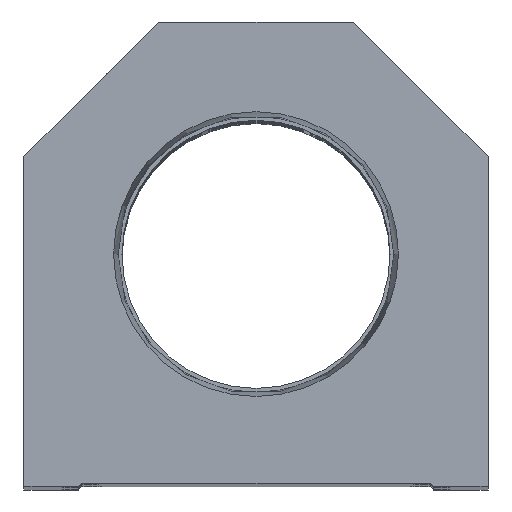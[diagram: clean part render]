
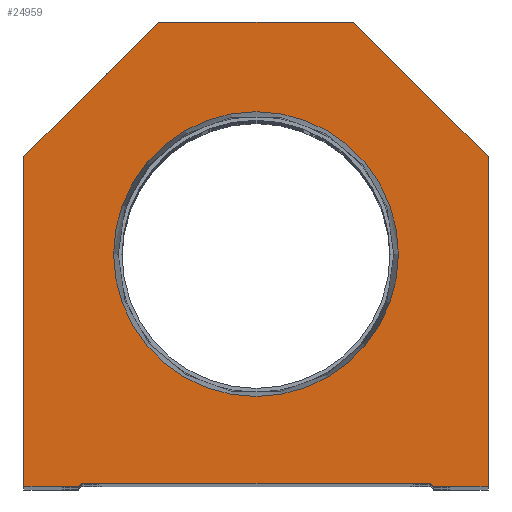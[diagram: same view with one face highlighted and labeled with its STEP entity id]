
A CAD part, top view. The second image highlights one B-rep face of the part: STEP entity #24959.
In plain terms, the highlighted planar face has unit normal (0, 0, 1).
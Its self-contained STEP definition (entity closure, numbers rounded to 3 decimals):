
#218 = LINE ( 'NONE', #4463, #15354 ) ;
#543 = EDGE_CURVE ( 'NONE', #13517, #16882, #7091, .T. ) ;
#654 = DIRECTION ( 'NONE',  ( 1., 0., 0. ) ) ;
#897 = CARTESIAN_POINT ( 'NONE',  ( -38.1, 0., 0. ) ) ;
#955 = CARTESIAN_POINT ( 'NONE',  ( -28.6, 0.5, 0. ) ) ;
#1130 = DIRECTION ( 'NONE',  ( -1., 0., 0. ) ) ;
#1288 = LINE ( 'NONE', #9402, #10842 ) ;
#1513 = DIRECTION ( 'NONE',  ( 1., 0., 0. ) ) ;
#1541 = EDGE_CURVE ( 'NONE', #17196, #5450, #5223, .T. ) ;
#1588 = DIRECTION ( 'NONE',  ( 1., 0., 0. ) ) ;
#1748 = CARTESIAN_POINT ( 'NONE',  ( 0., 38.1, 0. ) ) ;
#1871 = EDGE_CURVE ( 'NONE', #18361, #23431, #12104, .T. ) ;
#2298 = CARTESIAN_POINT ( 'NONE',  ( -14.55, 14.55, 0. ) ) ;
#2429 = EDGE_CURVE ( 'NONE', #15503, #15058, #11474, .T. ) ;
#2676 = LINE ( 'NONE', #9314, #18760 ) ;
#3188 = LINE ( 'NONE', #21119, #15501 ) ;
#3242 = VECTOR ( 'NONE', #6411, 1000. ) ;
#3899 = ORIENTED_EDGE ( 'NONE', *, *, #543, .T. ) ;
#4004 = DIRECTION ( 'NONE',  ( 0., 0., 1. ) ) ;
#4463 = CARTESIAN_POINT ( 'NONE',  ( 38.1, 54.1, 0. ) ) ;
#5110 = ORIENTED_EDGE ( 'NONE', *, *, #15282, .F. ) ;
#5223 = LINE ( 'NONE', #9629, #15840 ) ;
#5450 = VERTEX_POINT ( 'NONE', #25671 ) ;
#5772 = CIRCLE ( 'NONE', #20491, 23.374 ) ;
#5850 = CARTESIAN_POINT ( 'NONE',  ( 14.55, 14.55, 0. ) ) ;
#6133 = ORIENTED_EDGE ( 'NONE', *, *, #25575, .T. ) ;
#6411 = DIRECTION ( 'NONE',  ( 0.707, 0.707, 0. ) ) ;
#7091 = LINE ( 'NONE', #19591, #21587 ) ;
#7117 = VERTEX_POINT ( 'NONE', #21606 ) ;
#7305 = CARTESIAN_POINT ( 'NONE',  ( 0., 0., 0. ) ) ;
#7808 = ORIENTED_EDGE ( 'NONE', *, *, #2429, .F. ) ;
#7919 = CARTESIAN_POINT ( 'NONE',  ( -29.1, 0., 0. ) ) ;
#8086 = CARTESIAN_POINT ( 'NONE',  ( 23.374, 38.1, 0. ) ) ;
#8144 = EDGE_CURVE ( 'NONE', #11089, #18361, #2676, .T. ) ;
#8472 = VECTOR ( 'NONE', #14540, 1000. ) ;
#8495 = DIRECTION ( 'NONE',  ( 0., -1., 0. ) ) ;
#9314 = CARTESIAN_POINT ( 'NONE',  ( -28.6, 0., 0. ) ) ;
#9402 = CARTESIAN_POINT ( 'NONE',  ( -28.6, 0.5, 0. ) ) ;
#9440 = FACE_OUTER_BOUND ( 'NONE', #19140, .T. ) ;
#9629 = CARTESIAN_POINT ( 'NONE',  ( 16., 76.2, 0. ) ) ;
#10194 = ORIENTED_EDGE ( 'NONE', *, *, #17692, .T. ) ;
#10446 = DIRECTION ( 'NONE',  ( -0.707, 0.707, 0. ) ) ;
#10713 = CARTESIAN_POINT ( 'NONE',  ( 38.1, 0., 0. ) ) ;
#10762 = DIRECTION ( 'NONE',  ( 1., 0., 0. ) ) ;
#10842 = VECTOR ( 'NONE', #15336, 1000. ) ;
#11076 = CARTESIAN_POINT ( 'NONE',  ( 28.6, 0.5, 0. ) ) ;
#11089 = VERTEX_POINT ( 'NONE', #897 ) ;
#11474 = CIRCLE ( 'NONE', #21136, 23.374 ) ;
#11669 = FACE_BOUND ( 'NONE', #21214, .T. ) ;
#11675 = DIRECTION ( 'NONE',  ( 0.707, -0.707, 0. ) ) ;
#12104 = LINE ( 'NONE', #2298, #3242 ) ;
#12287 = ORIENTED_EDGE ( 'NONE', *, *, #1871, .T. ) ;
#12658 = ORIENTED_EDGE ( 'NONE', *, *, #26046, .T. ) ;
#13079 = ORIENTED_EDGE ( 'NONE', *, *, #13736, .T. ) ;
#13517 = VERTEX_POINT ( 'NONE', #23567 ) ;
#13736 = EDGE_CURVE ( 'NONE', #5450, #24949, #3188, .T. ) ;
#13923 = CARTESIAN_POINT ( 'NONE',  ( -38.1, 54.1, 0. ) ) ;
#14212 = EDGE_CURVE ( 'NONE', #23431, #26123, #1288, .T. ) ;
#14342 = DIRECTION ( 'NONE',  ( 1., 0., 0. ) ) ;
#14540 = DIRECTION ( 'NONE',  ( 0., 1., 0. ) ) ;
#14905 = CARTESIAN_POINT ( 'NONE',  ( 16., 76.2, 0. ) ) ;
#15058 = VERTEX_POINT ( 'NONE', #19214 ) ;
#15282 = EDGE_CURVE ( 'NONE', #15058, #15503, #5772, .T. ) ;
#15336 = DIRECTION ( 'NONE',  ( 1., 0., 0. ) ) ;
#15354 = VECTOR ( 'NONE', #10446, 1000. ) ;
#15363 = ORIENTED_EDGE ( 'NONE', *, *, #8144, .T. ) ;
#15369 = DIRECTION ( 'NONE',  ( -0.707, -0.707, 0. ) ) ;
#15501 = VECTOR ( 'NONE', #15369, 1000. ) ;
#15503 = VERTEX_POINT ( 'NONE', #8086 ) ;
#15840 = VECTOR ( 'NONE', #1130, 1000. ) ;
#16882 = VERTEX_POINT ( 'NONE', #10713 ) ;
#17196 = VERTEX_POINT ( 'NONE', #14905 ) ;
#17692 = EDGE_CURVE ( 'NONE', #24949, #11089, #24867, .T. ) ;
#18361 = VERTEX_POINT ( 'NONE', #7919 ) ;
#18458 = LINE ( 'NONE', #22531, #8472 ) ;
#18752 = CARTESIAN_POINT ( 'NONE',  ( -38.1, 0., 0. ) ) ;
#18760 = VECTOR ( 'NONE', #10762, 1000. ) ;
#19140 = EDGE_LOOP ( 'NONE', ( #15363, #12287, #25545, #6133, #3899, #24919, #12658, #21581, #13079, #10194 ) ) ;
#19214 = CARTESIAN_POINT ( 'NONE',  ( -23.374, 38.1, 0. ) ) ;
#19591 = CARTESIAN_POINT ( 'NONE',  ( 28.6, 0., 0. ) ) ;
#19675 = PLANE ( 'NONE',  #19932 ) ;
#19932 = AXIS2_PLACEMENT_3D ( 'NONE', #7305, #25920, #1588 ) ;
#20491 = AXIS2_PLACEMENT_3D ( 'NONE', #1748, #4004, #14342 ) ;
#21022 = VECTOR ( 'NONE', #8495, 1000. ) ;
#21119 = CARTESIAN_POINT ( 'NONE',  ( -38.1, 54.1, 0. ) ) ;
#21136 = AXIS2_PLACEMENT_3D ( 'NONE', #24729, #22825, #654 ) ;
#21214 = EDGE_LOOP ( 'NONE', ( #7808, #5110 ) ) ;
#21581 = ORIENTED_EDGE ( 'NONE', *, *, #1541, .T. ) ;
#21587 = VECTOR ( 'NONE', #1513, 1000. ) ;
#21606 = CARTESIAN_POINT ( 'NONE',  ( 38.1, 54.1, 0. ) ) ;
#21684 = VECTOR ( 'NONE', #11675, 1000. ) ;
#21809 = LINE ( 'NONE', #5850, #21684 ) ;
#22463 = EDGE_CURVE ( 'NONE', #16882, #7117, #18458, .T. ) ;
#22531 = CARTESIAN_POINT ( 'NONE',  ( 38.1, 0., 0. ) ) ;
#22825 = DIRECTION ( 'NONE',  ( 0., 0., 1. ) ) ;
#23431 = VERTEX_POINT ( 'NONE', #955 ) ;
#23567 = CARTESIAN_POINT ( 'NONE',  ( 29.1, 0., 0. ) ) ;
#24729 = CARTESIAN_POINT ( 'NONE',  ( 0., 38.1, 0. ) ) ;
#24867 = LINE ( 'NONE', #18752, #21022 ) ;
#24919 = ORIENTED_EDGE ( 'NONE', *, *, #22463, .T. ) ;
#24949 = VERTEX_POINT ( 'NONE', #13923 ) ;
#24959 = ADVANCED_FACE ( 'NONE', ( #11669, #9440 ), #19675, .T. ) ;
#25545 = ORIENTED_EDGE ( 'NONE', *, *, #14212, .T. ) ;
#25575 = EDGE_CURVE ( 'NONE', #26123, #13517, #21809, .T. ) ;
#25671 = CARTESIAN_POINT ( 'NONE',  ( -16., 76.2, 0. ) ) ;
#25920 = DIRECTION ( 'NONE',  ( 0., 0., 1. ) ) ;
#26046 = EDGE_CURVE ( 'NONE', #7117, #17196, #218, .T. ) ;
#26123 = VERTEX_POINT ( 'NONE', #11076 ) ;
